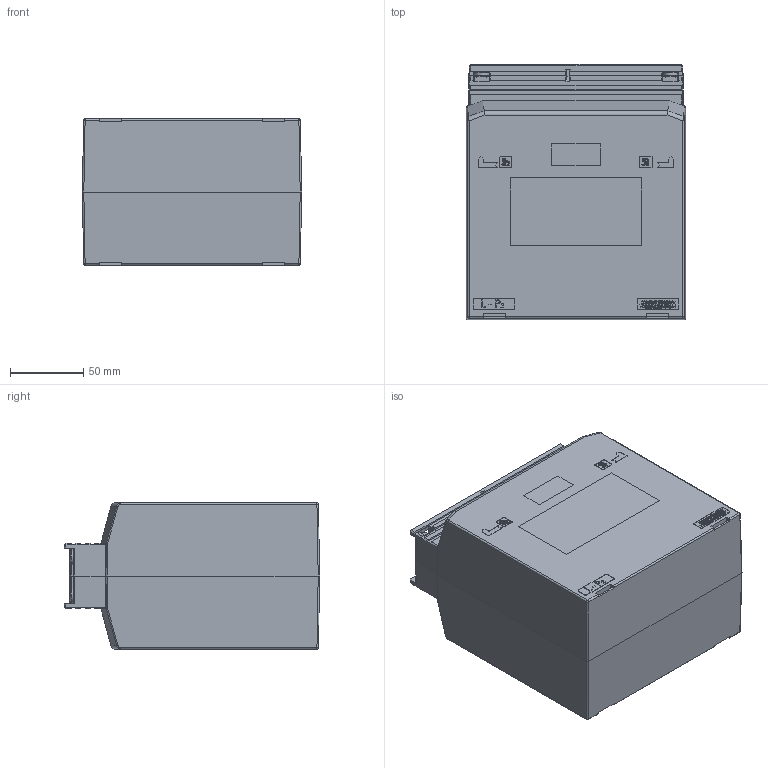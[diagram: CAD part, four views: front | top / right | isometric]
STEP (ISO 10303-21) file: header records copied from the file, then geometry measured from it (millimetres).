
FILE_DESCRIPTION (( 'STEP AP214' ), '1' );
FILE_NAME ('Spannungswandler Zweipolig mit richtigen Klemmen.STEP', '2018-11-20T06:33:57', ( '' ), ( '' ), 'SwSTEP 2.0', 'SolidWorks 2015', '' );
FILE_SCHEMA (( 'AUTOMOTIVE_DESIGN' ));
Length unit declared in the file: millimetre
Products named in the file (18): Wechseleinsatz neu ASK 41.10_IEC 61869-3; Wechseleinsatz neu ASK 41.10_blind; Wechseleinsatz neu ASK 41.10_a; Wechseleinsatz neu ASK 41.10_A1; Einsatz blind Schienenfenster; Einsatz blind Befestigung; SASK41.10_Gehõuseschale_Spannungswandler; 2 Klemmen Klemme 11mm mit Schraube und Zwischenstück 13mm; Spannungswandler Zweipolig mit richtigen Klemmen; Klemme 11mm mit Schraube; Zwischenstück 13mm; scheibe_din125-2_-_a_d1_5_3_-_300_hv; Linsenschraube_DIN7985_M5x8; Klemme 11mm; Gehäuseschale Spannungswandler B-b; Wechseleinsatz neu ASK 41.10_B1; Wechseleinsatz neu ASK 41.10_b; Gehäuseschale Spannungswandler A-a
Assembly tree (26 placements, depth 4):
  Spannungswandler Zweipolig mit richtigen Klemmen
    Gehäuseschale Spannungswandler A-a
      SASK41.10_Gehõuseschale_Spannungswandler
      Einsatz blind Befestigung
      Einsatz blind Schienenfenster
      Wechseleinsatz neu ASK 41.10_A1
      Wechseleinsatz neu ASK 41.10_a
      Wechseleinsatz neu ASK 41.10_blind
      Wechseleinsatz neu ASK 41.10_IEC 61869-3
    Gehäuseschale Spannungswandler B-b
      SASK41.10_Gehõuseschale_Spannungswandler
      Einsatz blind Befestigung
      Einsatz blind Schienenfenster
      Wechseleinsatz neu ASK 41.10_b
      Wechseleinsatz neu ASK 41.10_B1
      Wechseleinsatz neu ASK 41.10_blind
      Wechseleinsatz neu ASK 41.10_IEC 61869-3
    2 Klemmen Klemme 11mm mit Schraube und Zwischenstück 13mm  x2
      Klemme 11mm
      Linsenschraube_DIN7985_M5x8
      scheibe_din125-2_-_a_d1_5_3_-_300_hv
      Zwischenstück 13mm
      Klemme 11mm mit Schraube
        Klemme 11mm
        Linsenschraube_DIN7985_M5x8
        scheibe_din125-2_-_a_d1_5_3_-_300_hv
Bounding box: 150 x 174.67 x 101 mm (x, y, z)
Volume: 1884341.5 mm3; surface area: 215724.7 mm2
Topology: 52 solids, 52 shells, 2386 faces, 6273 edges, 4154 vertices
Faces by surface type: plane 1523, bspline 691, cylinder 144, cone 24, sphere 4
Full cylindrical faces by diameter (mm): 3 x4, 4.2 x4, 5 x4, 5.3 x4, 10 x8
Entity records: 63318 total; most frequent: CARTESIAN_POINT 27898, ORIENTED_EDGE 6264, DIRECTION 4295, EDGE_CURVE 3132, VECTOR 2237, LINE 2237, VERTEX_POINT 2083, EDGE_LOOP 1319
